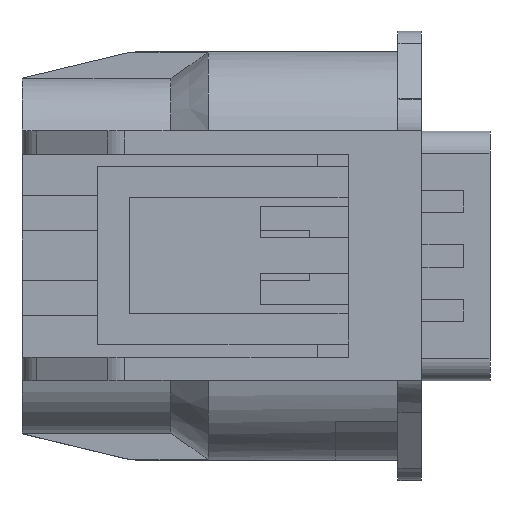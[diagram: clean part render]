
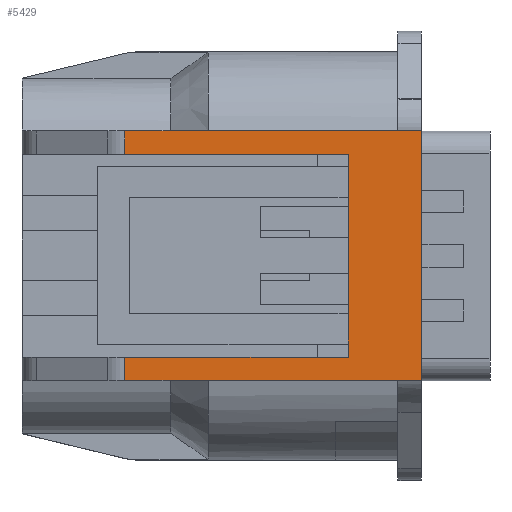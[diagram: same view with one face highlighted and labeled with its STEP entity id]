
A CAD part, top view. The second image highlights one B-rep face of the part: STEP entity #5429.
In plain terms, the highlighted planar face has unit normal (0, 0, 1).
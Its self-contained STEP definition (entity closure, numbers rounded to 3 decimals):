
#5407=AXIS2_PLACEMENT_3D('Plane Axis2P3D',#5404,#5405,#5406) ;
#1340=CARTESIAN_POINT('Vertex',(-9.1,6.5,12.3)) ;
#1343=CARTESIAN_POINT('Line Origine',(-16.25,6.5,12.3)) ;
#1347=CARTESIAN_POINT('Vertex',(-23.401,6.5,12.3)) ;
#1388=CARTESIAN_POINT('Line Origine',(-23.401,0.,12.3)) ;
#1392=CARTESIAN_POINT('Vertex',(-23.401,8.,12.3)) ;
#1467=CARTESIAN_POINT('Line Origine',(-13.9,8.,12.3)) ;
#1471=CARTESIAN_POINT('Vertex',(-4.4,8.,12.3)) ;
#2245=CARTESIAN_POINT('Line Origine',(-4.4,0.,12.3)) ;
#2249=CARTESIAN_POINT('Vertex',(-4.4,-8.,12.3)) ;
#2694=CARTESIAN_POINT('Vertex',(-9.1,-6.5,12.3)) ;
#2697=CARTESIAN_POINT('Line Origine',(-9.1,0.,12.3)) ;
#3223=CARTESIAN_POINT('Vertex',(-23.401,-6.5,12.3)) ;
#3230=CARTESIAN_POINT('Vertex',(-23.401,-8.,12.3)) ;
#3233=CARTESIAN_POINT('Line Origine',(-23.401,0.,12.3)) ;
#5404=CARTESIAN_POINT('Axis2P3D Location',(-3.9,8.,12.3)) ;
#5409=CARTESIAN_POINT('Line Origine',(-16.25,-6.5,12.3)) ;
#5414=CARTESIAN_POINT('Line Origine',(-13.9,-8.,12.3)) ;
#1344=DIRECTION('Vector Direction',(1.,0.,0.)) ;
#1389=DIRECTION('Vector Direction',(0.,-1.,0.)) ;
#1468=DIRECTION('Vector Direction',(-1.,0.,0.)) ;
#2246=DIRECTION('Vector Direction',(0.,1.,0.)) ;
#2698=DIRECTION('Vector Direction',(0.,1.,0.)) ;
#3234=DIRECTION('Vector Direction',(0.,1.,0.)) ;
#5405=DIRECTION('Axis2P3D Direction',(0.,0.,1.)) ;
#5406=DIRECTION('Axis2P3D XDirection',(0.,1.,0.)) ;
#5410=DIRECTION('Vector Direction',(-1.,0.,0.)) ;
#5415=DIRECTION('Vector Direction',(1.,0.,0.)) ;
#1345=VECTOR('Line Direction',#1344,1.) ;
#1390=VECTOR('Line Direction',#1389,1.) ;
#1469=VECTOR('Line Direction',#1468,1.) ;
#2247=VECTOR('Line Direction',#2246,1.) ;
#2699=VECTOR('Line Direction',#2698,1.) ;
#3235=VECTOR('Line Direction',#3234,1.) ;
#5411=VECTOR('Line Direction',#5410,1.) ;
#5416=VECTOR('Line Direction',#5415,1.) ;
#5420=ORIENTED_EDGE('',*,*,#1349,.T.) ;
#5421=ORIENTED_EDGE('',*,*,#2701,.F.) ;
#5422=ORIENTED_EDGE('',*,*,#5413,.T.) ;
#5423=ORIENTED_EDGE('',*,*,#3237,.F.) ;
#5424=ORIENTED_EDGE('',*,*,#5418,.T.) ;
#5425=ORIENTED_EDGE('',*,*,#2251,.T.) ;
#5426=ORIENTED_EDGE('',*,*,#1473,.T.) ;
#5427=ORIENTED_EDGE('',*,*,#1394,.T.) ;
#5429=ADVANCED_FACE('OLD CPA',(#5428),#5408,.T.) ;
#1349=EDGE_CURVE('',#1348,#1341,#1346,.T.) ;
#1394=EDGE_CURVE('',#1393,#1348,#1391,.T.) ;
#1473=EDGE_CURVE('',#1472,#1393,#1470,.T.) ;
#2251=EDGE_CURVE('',#2250,#1472,#2248,.T.) ;
#2701=EDGE_CURVE('',#2695,#1341,#2700,.T.) ;
#3237=EDGE_CURVE('',#3231,#3224,#3236,.T.) ;
#5413=EDGE_CURVE('',#2695,#3224,#5412,.T.) ;
#5418=EDGE_CURVE('',#3231,#2250,#5417,.T.) ;
#5419=EDGE_LOOP('',(#5420,#5421,#5422,#5423,#5424,#5425,#5426,#5427)) ;
#5428=FACE_OUTER_BOUND('',#5419,.T.) ;
#1346=LINE('Line',#1343,#1345) ;
#1391=LINE('Line',#1388,#1390) ;
#1470=LINE('Line',#1467,#1469) ;
#2248=LINE('Line',#2245,#2247) ;
#2700=LINE('Line',#2697,#2699) ;
#3236=LINE('Line',#3233,#3235) ;
#5412=LINE('Line',#5409,#5411) ;
#5417=LINE('Line',#5414,#5416) ;
#5408=PLANE('',#5407) ;
#1341=VERTEX_POINT('',#1340) ;
#1348=VERTEX_POINT('',#1347) ;
#1393=VERTEX_POINT('',#1392) ;
#1472=VERTEX_POINT('',#1471) ;
#2250=VERTEX_POINT('',#2249) ;
#2695=VERTEX_POINT('',#2694) ;
#3224=VERTEX_POINT('',#3223) ;
#3231=VERTEX_POINT('',#3230) ;
